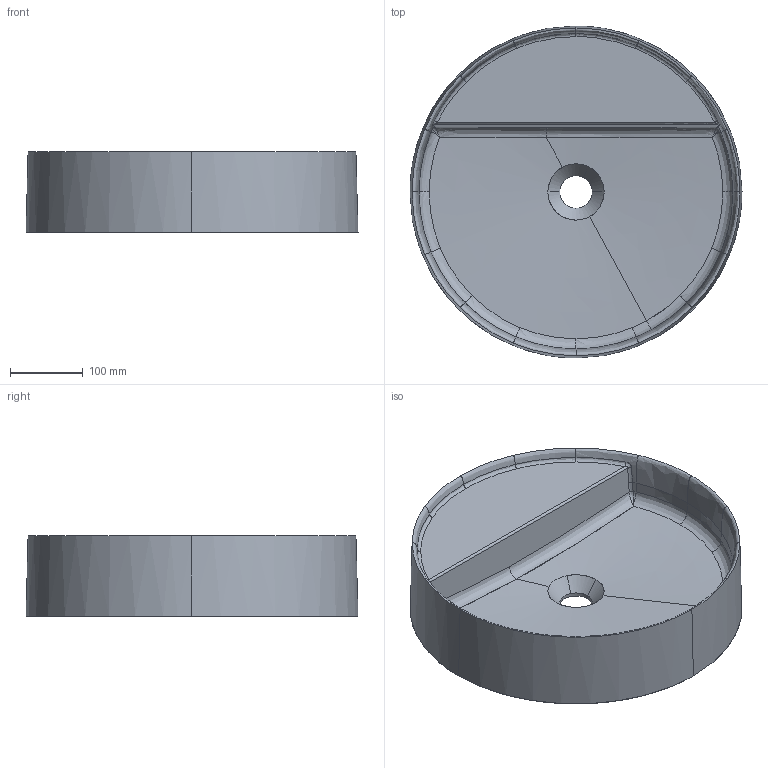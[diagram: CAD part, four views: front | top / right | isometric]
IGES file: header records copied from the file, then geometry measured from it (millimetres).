
Start section: START RECORD GO HERE.
Global section: file name: ART 7404 tondo 45.igs; native system: DASSAULT SYSTEMES CATIA V5 R19 - www.3ds.com; preprocessor: CATIA Version 5 Release 19 SP 5 ; author: Luca; organization: DESKTOP-V7SON24; date: 20171016.205623; units: millimetre
Bounding box: 455.76 x 455.76 x 110 mm (x, y, z)
Surface area: 624580.8 mm2 (no closed solid volume)
Topology: 0 solids, 0 shells, 125 faces, 639 edges, 637 vertices
Faces by surface type: bspline 114, revolution 6, plane 5
